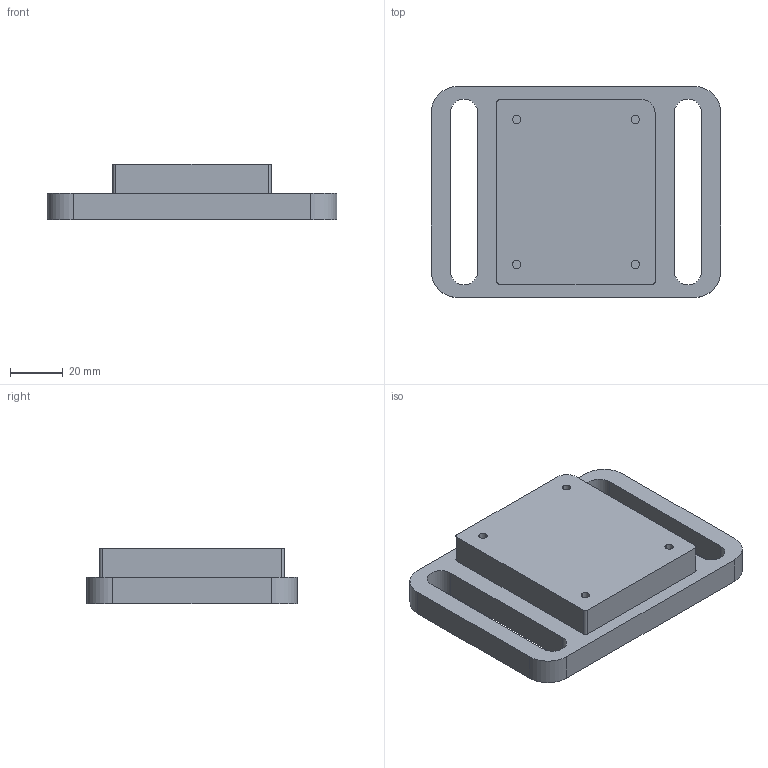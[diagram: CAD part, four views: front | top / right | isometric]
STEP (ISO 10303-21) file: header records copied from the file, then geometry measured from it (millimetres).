
FILE_DESCRIPTION(('CATIA V5 STEP Exchange'),'2;1');
FILE_NAME('D:\姚明阳\1、工装图纸\2、腰托阀（开关）治具工装 -2022.11.26更新\AGZL01 腰托阀压钢珠工装1\AGZL01 设计文件（pdf+stp）\AGZL01.04与其他工装件配合关系示意.stp','2022-12-28T03:22:01+00:00',('none'),('none'),'CATIA Version 5 Release 21 GA (IN-10)','CATIA V5 STEP AP214','none');
FILE_SCHEMA(('AUTOMOTIVE_DESIGN { 1 0 10303 214 1 1 1 1 }'));
Length unit declared in the file: millimetre
Products named in the file (3): AGZL01.00_V1; AGZL01.01_V1; AGZL01.04_V1
Assembly tree (2 placements, depth 2):
  AGZL01.00_V1
    AGZL01.01_V1
    AGZL01.04_V1
Bounding box: 110 x 80 x 21.1 mm (x, y, z)
Volume: 118977.1 mm3; surface area: 36560.4 mm2
Topology: 2 solids, 2 shells, 49 faces, 120 edges, 80 vertices
Faces by surface type: plane 25, cylinder 24
Entity records: 1455 total; most frequent: CARTESIAN_POINT 246, ORIENTED_EDGE 240, DIRECTION 212, EDGE_CURVE 120, AXIS2_PLACEMENT_3D 94, VERTEX_POINT 80, VECTOR 72, LINE 72
